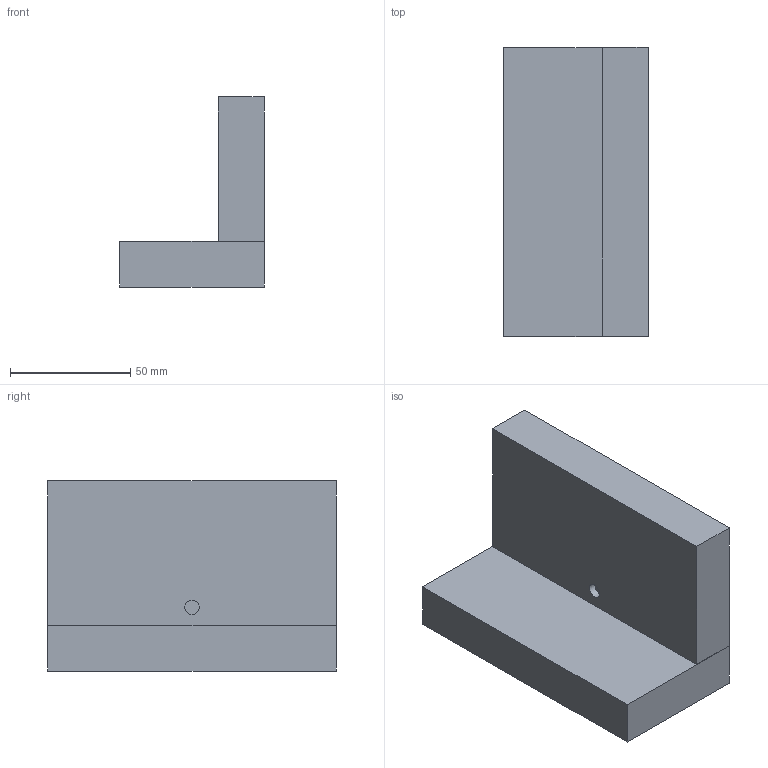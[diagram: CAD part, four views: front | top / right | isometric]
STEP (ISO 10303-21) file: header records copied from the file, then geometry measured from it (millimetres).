
FILE_DESCRIPTION(/* description */ ('Unknown'),/* implementation_level */ '2;1');
FILE_NAME(/* name */ 'FIYU_90_Schraube_Fläche',/* time_stamp */ '2023-10-04T13:45:39+02:00',/* author */ ('Unknown'),/* organization */ ('Unknown'),/* preprocessor_version */ 'ST-DEVELOPER v16.7',/* originating_system */ 'Solid Edge',/* authorisation */ 'Unknown');
FILE_SCHEMA (('AUTOMOTIVE_DESIGN {1 0 10303 214 3 1 1}'));
Length unit declared in the file: millimetre
Products named in the file (8): FIYU_90_Schraube_Fläche; Nut_Fläche_Spreizteil; Profilnut_Fläche; FIYU_Fast_Spreizteil; Nut_Kante_Klemmteil; Profilnut_Kante_Flächenbohrung; FIYU_Fast_Klemmteil; Gewindestift_M6x12
Assembly tree (7 placements, depth 3):
  FIYU_90_Schraube_Fläche
    Nut_Fläche_Spreizteil
      Profilnut_Fläche
      FIYU_Fast_Spreizteil
    Nut_Kante_Klemmteil
      Profilnut_Kante_Flächenbohrung
      FIYU_Fast_Klemmteil
    Gewindestift_M6x12
Bounding box: 60 x 120 x 79 mm (x, y, z)
Volume: 270185.1 mm3; surface area: 51605.8 mm2
Topology: 5 solids, 5 shells, 155 faces, 411 edges, 273 vertices
Faces by surface type: plane 111, cylinder 31, cone 13
Full cylindrical faces by diameter (mm): 6 x3
Entity records: 4991 total; most frequent: CARTESIAN_POINT 911, ORIENTED_EDGE 810, DIRECTION 802, EDGE_CURVE 405, LINE 286, VECTOR 286, VERTEX_POINT 271, AXIS2_PLACEMENT_3D 258
